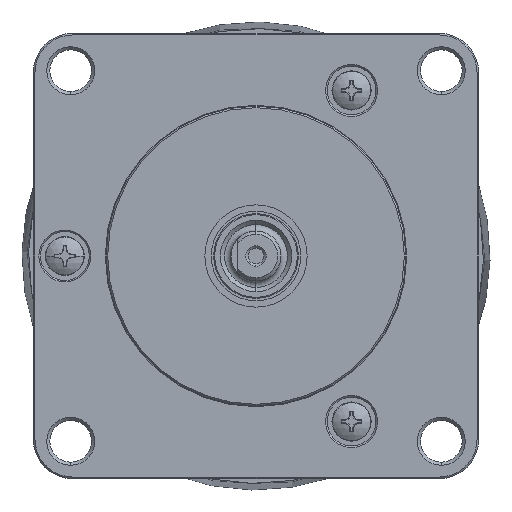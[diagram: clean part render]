
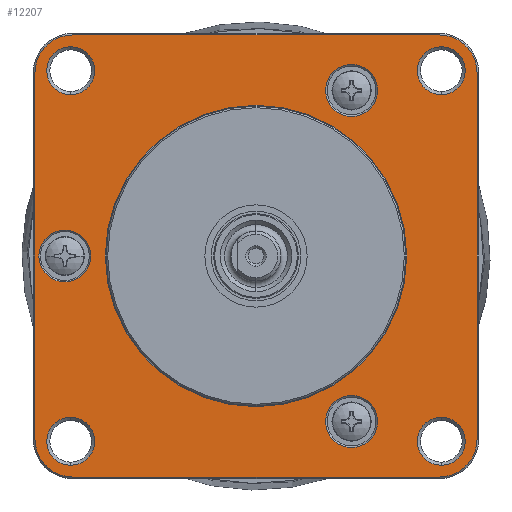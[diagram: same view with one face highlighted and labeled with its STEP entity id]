
A CAD part, left-side view. The second image highlights one B-rep face of the part: STEP entity #12207.
In plain terms, the highlighted planar face has unit normal (-1, 0, 0) as drawn and (0, 0, 1) by its records, which use the part's own axes.
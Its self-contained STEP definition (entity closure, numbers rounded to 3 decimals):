
#5854=CARTESIAN_POINT('',(-23.3,-23.3,19.));
#5855=DIRECTION('',(0.,0.,-1.));
#5856=DIRECTION('',(0.,-1.,0.));
#5857=AXIS2_PLACEMENT_3D('',#5854,#5855,#5856);
#5862=CARTESIAN_POINT('',(-23.3,23.3,19.));
#5863=DIRECTION('',(0.,0.,-1.));
#5864=DIRECTION('',(-1.,0.,0.));
#5865=AXIS2_PLACEMENT_3D('',#5862,#5863,#5864);
#5870=CARTESIAN_POINT('',(23.3,23.3,19.));
#5871=DIRECTION('',(0.,0.,-1.));
#5872=DIRECTION('',(0.,1.,0.));
#5873=AXIS2_PLACEMENT_3D('',#5870,#5871,#5872);
#5878=CARTESIAN_POINT('',(23.3,-23.3,19.));
#5879=DIRECTION('',(0.,0.,-1.));
#5880=DIRECTION('',(1.,0.,0.));
#5881=AXIS2_PLACEMENT_3D('',#5878,#5879,#5880);
#5886=CARTESIAN_POINT('',(-21.044,-12.15,19.));
#5887=DIRECTION('',(0.,0.,1.));
#5888=DIRECTION('',(-1.,0.,0.));
#5889=AXIS2_PLACEMENT_3D('',#5886,#5887,#5888);
#5894=CARTESIAN_POINT('',(-21.044,-12.15,19.));
#5895=DIRECTION('',(0.,0.,1.));
#5896=DIRECTION('',(1.,0.,0.));
#5897=AXIS2_PLACEMENT_3D('',#5894,#5895,#5896);
#5902=CARTESIAN_POINT('',(21.044,-12.15,19.));
#5903=DIRECTION('',(0.,0.,1.));
#5904=DIRECTION('',(-1.,0.,0.));
#5905=AXIS2_PLACEMENT_3D('',#5902,#5903,#5904);
#5910=CARTESIAN_POINT('',(21.044,-12.15,19.));
#5911=DIRECTION('',(0.,0.,1.));
#5912=DIRECTION('',(1.,0.,0.));
#5913=AXIS2_PLACEMENT_3D('',#5910,#5911,#5912);
#5918=CARTESIAN_POINT('',(0.,24.3,19.));
#5919=DIRECTION('',(0.,0.,1.));
#5920=DIRECTION('',(-1.,0.,0.));
#5921=AXIS2_PLACEMENT_3D('',#5918,#5919,#5920);
#5926=CARTESIAN_POINT('',(0.,24.3,19.));
#5927=DIRECTION('',(0.,0.,1.));
#5928=DIRECTION('',(1.,0.,0.));
#5929=AXIS2_PLACEMENT_3D('',#5926,#5927,#5928);
#5934=CARTESIAN_POINT('',(0.,0.,19.));
#5935=DIRECTION('',(0.,0.,1.));
#5936=DIRECTION('',(-1.,0.,0.));
#5937=AXIS2_PLACEMENT_3D('',#5934,#5935,#5936);
#5942=CARTESIAN_POINT('',(0.,0.,19.));
#5943=DIRECTION('',(0.,0.,1.));
#5944=DIRECTION('',(1.,0.,0.));
#5945=AXIS2_PLACEMENT_3D('',#5942,#5943,#5944);
#5950=CARTESIAN_POINT('',(23.55,-23.55,19.));
#5951=DIRECTION('',(0.,0.,1.));
#5952=DIRECTION('',(-1.,0.,0.));
#5953=AXIS2_PLACEMENT_3D('',#5950,#5951,#5952);
#5958=CARTESIAN_POINT('',(23.55,-23.55,19.));
#5959=DIRECTION('',(0.,0.,1.));
#5960=DIRECTION('',(1.,0.,0.));
#5961=AXIS2_PLACEMENT_3D('',#5958,#5959,#5960);
#5966=CARTESIAN_POINT('',(-23.55,-23.55,19.));
#5967=DIRECTION('',(0.,0.,1.));
#5968=DIRECTION('',(-1.,0.,0.));
#5969=AXIS2_PLACEMENT_3D('',#5966,#5967,#5968);
#5974=CARTESIAN_POINT('',(-23.55,-23.55,19.));
#5975=DIRECTION('',(0.,0.,1.));
#5976=DIRECTION('',(1.,0.,0.));
#5977=AXIS2_PLACEMENT_3D('',#5974,#5975,#5976);
#5982=CARTESIAN_POINT('',(-23.55,23.55,19.));
#5983=DIRECTION('',(0.,0.,1.));
#5984=DIRECTION('',(-1.,0.,0.));
#5985=AXIS2_PLACEMENT_3D('',#5982,#5983,#5984);
#5990=CARTESIAN_POINT('',(-23.55,23.55,19.));
#5991=DIRECTION('',(0.,0.,1.));
#5992=DIRECTION('',(1.,0.,0.));
#5993=AXIS2_PLACEMENT_3D('',#5990,#5991,#5992);
#5998=CARTESIAN_POINT('',(23.55,23.55,19.));
#5999=DIRECTION('',(0.,0.,1.));
#6000=DIRECTION('',(-1.,0.,0.));
#6001=AXIS2_PLACEMENT_3D('',#5998,#5999,#6000);
#6006=CARTESIAN_POINT('',(23.55,23.55,19.));
#6007=DIRECTION('',(0.,0.,1.));
#6008=DIRECTION('',(1.,0.,0.));
#6009=AXIS2_PLACEMENT_3D('',#6006,#6007,#6008);
#6014=DIRECTION('',(0.,-1.,0.));
#6015=VECTOR('',#6014,46.6);
#6016=CARTESIAN_POINT('',(-28.1,23.3,19.));
#6017=LINE('',#6016,#6015);
#6035=DIRECTION('',(-1.,0.,0.));
#6036=VECTOR('',#6035,46.6);
#6037=CARTESIAN_POINT('',(23.3,28.1,19.));
#6038=LINE('',#6037,#6036);
#7540=DIRECTION('',(0.,1.,0.));
#7541=VECTOR('',#7540,46.6);
#7542=CARTESIAN_POINT('',(28.1,-23.3,19.));
#7543=LINE('',#7542,#7541);
#7569=DIRECTION('',(1.,0.,0.));
#7570=VECTOR('',#7569,46.6);
#7571=CARTESIAN_POINT('',(-23.3,-28.1,19.));
#7572=LINE('',#7571,#7570);
#11061=CARTESIAN_POINT('',(-26.6,-23.55,19.));
#11062=VERTEX_POINT('',#11061);
#11063=CARTESIAN_POINT('',(-20.5,-23.55,19.));
#11064=VERTEX_POINT('',#11063);
#11065=CARTESIAN_POINT('',(-23.3,-28.1,19.));
#11066=CARTESIAN_POINT('',(-28.1,-23.3,19.));
#11067=VERTEX_POINT('',#11065);
#11068=VERTEX_POINT('',#11066);
#11069=CARTESIAN_POINT('',(-28.1,23.3,19.));
#11070=CARTESIAN_POINT('',(-23.3,28.1,19.));
#11071=VERTEX_POINT('',#11069);
#11072=VERTEX_POINT('',#11070);
#11073=CARTESIAN_POINT('',(23.3,28.1,19.));
#11074=CARTESIAN_POINT('',(28.1,23.3,19.));
#11075=VERTEX_POINT('',#11073);
#11076=VERTEX_POINT('',#11074);
#11077=CARTESIAN_POINT('',(28.1,-23.3,19.));
#11078=CARTESIAN_POINT('',(23.3,-28.1,19.));
#11079=VERTEX_POINT('',#11077);
#11080=VERTEX_POINT('',#11078);
#11081=CARTESIAN_POINT('',(-24.344,-12.15,19.));
#11082=CARTESIAN_POINT('',(-17.744,-12.15,19.));
#11083=VERTEX_POINT('',#11081);
#11084=VERTEX_POINT('',#11082);
#11085=CARTESIAN_POINT('',(17.744,-12.15,19.));
#11086=CARTESIAN_POINT('',(24.344,-12.15,19.));
#11087=VERTEX_POINT('',#11085);
#11088=VERTEX_POINT('',#11086);
#11089=CARTESIAN_POINT('',(-3.3,24.3,19.));
#11090=CARTESIAN_POINT('',(3.3,24.3,19.));
#11091=VERTEX_POINT('',#11089);
#11092=VERTEX_POINT('',#11090);
#11093=CARTESIAN_POINT('',(-19.15,0.,19.));
#11094=CARTESIAN_POINT('',(19.15,0.,19.));
#11095=VERTEX_POINT('',#11093);
#11096=VERTEX_POINT('',#11094);
#11097=CARTESIAN_POINT('',(20.5,-23.55,19.));
#11098=CARTESIAN_POINT('',(26.6,-23.55,19.));
#11099=VERTEX_POINT('',#11097);
#11100=VERTEX_POINT('',#11098);
#11101=CARTESIAN_POINT('',(-26.6,23.55,19.));
#11102=CARTESIAN_POINT('',(-20.5,23.55,19.));
#11103=VERTEX_POINT('',#11101);
#11104=VERTEX_POINT('',#11102);
#11105=CARTESIAN_POINT('',(20.5,23.55,19.));
#11106=CARTESIAN_POINT('',(26.6,23.55,19.));
#11107=VERTEX_POINT('',#11105);
#11108=VERTEX_POINT('',#11106);
#12138=CARTESIAN_POINT('',(0.,0.,19.));
#12139=DIRECTION('',(0.,0.,1.));
#12140=DIRECTION('',(1.,0.,0.));
#12141=AXIS2_PLACEMENT_3D('',#12138,#12139,#12140);
#12142=PLANE('',#12141);
#12144=ORIENTED_EDGE('',*,*,#12143,.T.);
#12146=ORIENTED_EDGE('',*,*,#12145,.F.);
#12148=ORIENTED_EDGE('',*,*,#12147,.T.);
#12150=ORIENTED_EDGE('',*,*,#12149,.F.);
#12152=ORIENTED_EDGE('',*,*,#12151,.T.);
#12154=ORIENTED_EDGE('',*,*,#12153,.F.);
#12156=ORIENTED_EDGE('',*,*,#12155,.T.);
#12158=ORIENTED_EDGE('',*,*,#12157,.F.);
#12159=EDGE_LOOP('',(#12144,#12146,#12148,#12150,#12152,#12154,#12156,#12158));
#12160=FACE_OUTER_BOUND('',#12159,.F.);
#12162=ORIENTED_EDGE('',*,*,#12161,.T.);
#12164=ORIENTED_EDGE('',*,*,#12163,.T.);
#12165=EDGE_LOOP('',(#12162,#12164));
#12166=FACE_BOUND('',#12165,.F.);
#12168=ORIENTED_EDGE('',*,*,#12167,.T.);
#12170=ORIENTED_EDGE('',*,*,#12169,.T.);
#12171=EDGE_LOOP('',(#12168,#12170));
#12172=FACE_BOUND('',#12171,.F.);
#12173=ORIENTED_EDGE('',*,*,#12094,.T.);
#12174=ORIENTED_EDGE('',*,*,#12119,.T.);
#12175=EDGE_LOOP('',(#12173,#12174));
#12176=FACE_BOUND('',#12175,.F.);
#12178=ORIENTED_EDGE('',*,*,#12177,.T.);
#12180=ORIENTED_EDGE('',*,*,#12179,.T.);
#12181=EDGE_LOOP('',(#12178,#12180));
#12182=FACE_BOUND('',#12181,.F.);
#12184=ORIENTED_EDGE('',*,*,#12183,.T.);
#12186=ORIENTED_EDGE('',*,*,#12185,.T.);
#12187=EDGE_LOOP('',(#12184,#12186));
#12188=FACE_BOUND('',#12187,.F.);
#12190=ORIENTED_EDGE('',*,*,#12189,.T.);
#12192=ORIENTED_EDGE('',*,*,#12191,.T.);
#12193=EDGE_LOOP('',(#12190,#12192));
#12194=FACE_BOUND('',#12193,.F.);
#12196=ORIENTED_EDGE('',*,*,#12195,.T.);
#12198=ORIENTED_EDGE('',*,*,#12197,.T.);
#12199=EDGE_LOOP('',(#12196,#12198));
#12200=FACE_BOUND('',#12199,.F.);
#12202=ORIENTED_EDGE('',*,*,#12201,.T.);
#12204=ORIENTED_EDGE('',*,*,#12203,.T.);
#12205=EDGE_LOOP('',(#12202,#12204));
#12206=FACE_BOUND('',#12205,.F.);
#5858=CIRCLE('',#5857,4.8);
#5866=CIRCLE('',#5865,4.8);
#5874=CIRCLE('',#5873,4.8);
#5882=CIRCLE('',#5881,4.8);
#5890=CIRCLE('',#5889,3.3);
#5898=CIRCLE('',#5897,3.3);
#5906=CIRCLE('',#5905,3.3);
#5914=CIRCLE('',#5913,3.3);
#5922=CIRCLE('',#5921,3.3);
#5930=CIRCLE('',#5929,3.3);
#5938=CIRCLE('',#5937,19.15);
#5946=CIRCLE('',#5945,19.15);
#5954=CIRCLE('',#5953,3.05);
#5962=CIRCLE('',#5961,3.05);
#5970=CIRCLE('',#5969,3.05);
#5978=CIRCLE('',#5977,3.05);
#5986=CIRCLE('',#5985,3.05);
#5994=CIRCLE('',#5993,3.05);
#6002=CIRCLE('',#6001,3.05);
#6010=CIRCLE('',#6009,3.05);
#12094=EDGE_CURVE('',#11091,#11092,#5922,.T.);
#12119=EDGE_CURVE('',#11092,#11091,#5930,.T.);
#12143=EDGE_CURVE('',#11067,#11068,#5858,.T.);
#12145=EDGE_CURVE('',#11071,#11068,#6017,.T.);
#12147=EDGE_CURVE('',#11071,#11072,#5866,.T.);
#12149=EDGE_CURVE('',#11075,#11072,#6038,.T.);
#12151=EDGE_CURVE('',#11075,#11076,#5874,.T.);
#12153=EDGE_CURVE('',#11079,#11076,#7543,.T.);
#12155=EDGE_CURVE('',#11079,#11080,#5882,.T.);
#12157=EDGE_CURVE('',#11067,#11080,#7572,.T.);
#12161=EDGE_CURVE('',#11083,#11084,#5890,.T.);
#12163=EDGE_CURVE('',#11084,#11083,#5898,.T.);
#12167=EDGE_CURVE('',#11087,#11088,#5906,.T.);
#12169=EDGE_CURVE('',#11088,#11087,#5914,.T.);
#12177=EDGE_CURVE('',#11095,#11096,#5938,.T.);
#12179=EDGE_CURVE('',#11096,#11095,#5946,.T.);
#12183=EDGE_CURVE('',#11099,#11100,#5954,.T.);
#12185=EDGE_CURVE('',#11100,#11099,#5962,.T.);
#12189=EDGE_CURVE('',#11062,#11064,#5970,.T.);
#12191=EDGE_CURVE('',#11064,#11062,#5978,.T.);
#12195=EDGE_CURVE('',#11103,#11104,#5986,.T.);
#12197=EDGE_CURVE('',#11104,#11103,#5994,.T.);
#12201=EDGE_CURVE('',#11107,#11108,#6002,.T.);
#12203=EDGE_CURVE('',#11108,#11107,#6010,.T.);
#12207=ADVANCED_FACE('',(#12160,#12166,#12172,#12176,#12182,#12188,#12194,
#12200,#12206),#12142,.T.);
